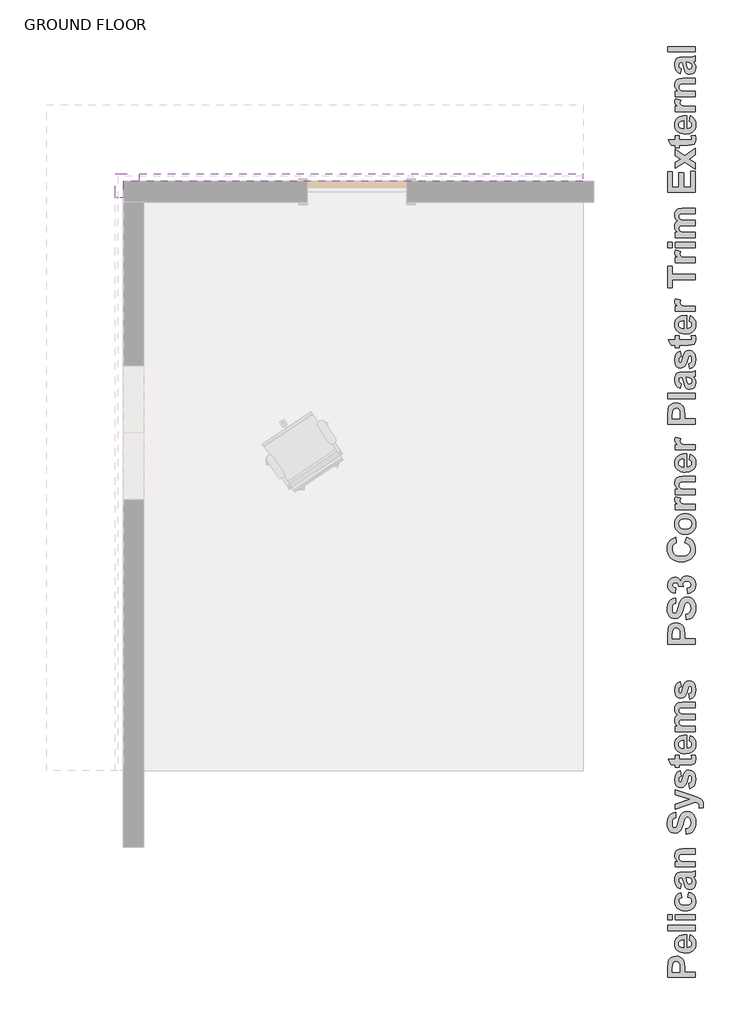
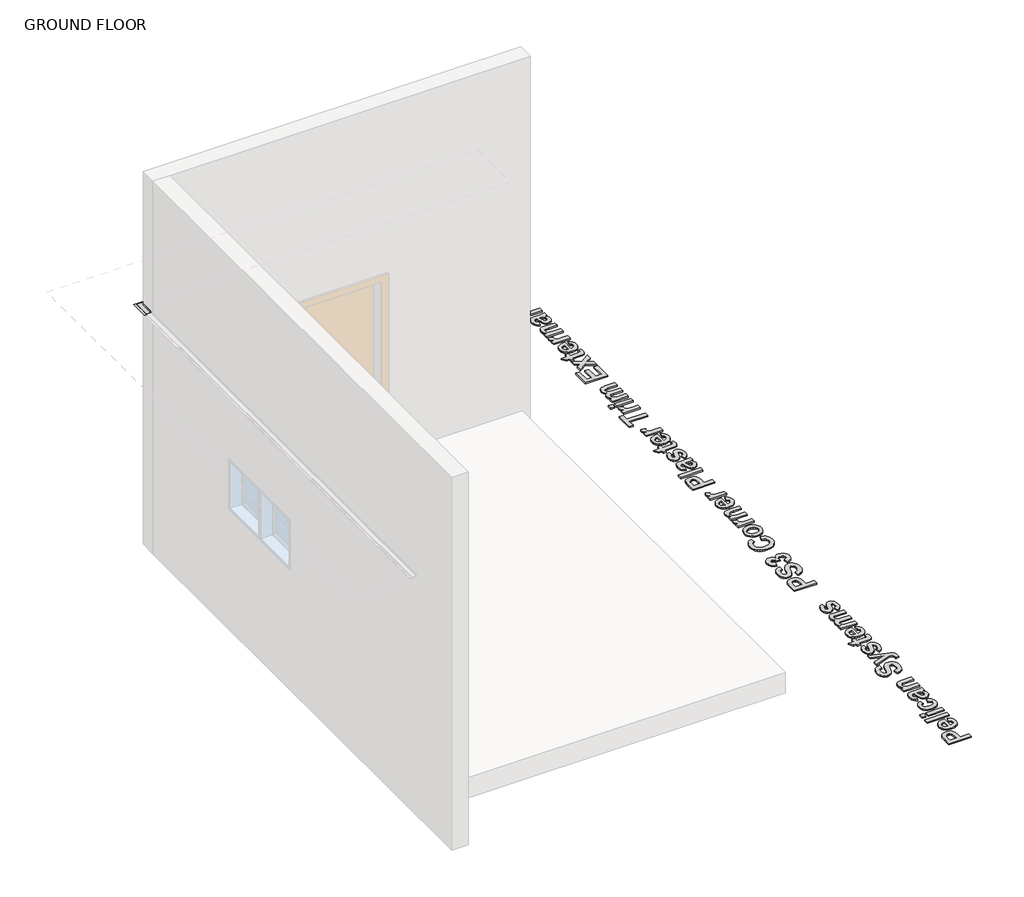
# One storey, part 2 of 2: 3 proxies.
"""IFC4 building model written with IfcOpenShell, lengths in millimetres."""

from ifc_helpers import new_model, si_unit, frame, origin, origin_with_axes, place, context, project, spatial, polyline, outline, extrude, transform, mapped, element, save
from components import ps3_corner_trim_external_f3c1cd9a

model = new_model("IFC4")

# Units and contexts
model_context = context("Model", 3, world=origin())
ifc_project = project(units=[si_unit("LENGTHUNIT", "METRE", prefix="MILLI")], contexts=[model_context])

# Site, building, storey
site = spatial("IfcSite", under=ifc_project)
building = spatial("IfcBuilding", under=site)
storey = spatial("IfcBuildingStorey", under=building, Name="GROUND FLOOR", Elevation=0.0)

# Proxies
placement = place(None, origin())
element("IfcBuildingElementProxy", 1, Name="600mm Arial", ObjectType="600mm Arial", at=placement, inside=storey, context=model_context, shape_type="SweptSolid", body=[
    extrude(outline(polyline([(125493.412774, 58020.8387413), (125238.347924, 58020.8387413), (125238.347924, 58103.013652), (125242.1435319, 58163.9331586), (125251.1976382, 58183.9787127), (125266.9731335, 58200.4658845), (125288.8848615, 58211.4968699), (125316.3476661, 58215.1738651), (125337.8323882, 58213.0151131), (125355.6005776, 58206.5388571), (125369.8024771, 58196.7335367), (125380.5883295, 58184.5875915), (125392.6393846, 58157.5438853), (125396.2452121, 58103.4564729), (125396.2452121, 58069.4225222), (125493.412774, 58069.4225222), (125493.412774, 58020.8387413)]), holes=[polyline([(125282.8830565, 58069.4225222), (125351.7100795, 58069.4225222), (125351.7100795, 58099.5976049), (125347.9144717, 58143.1522054), (125335.9899369, 58160.3589612), (125327.2046861, 58165.0323034), (125317.1067876, 58166.5900841), (125305.0399176, 58164.3997021), (125295.2820423, 58157.8285559), (125288.2917978, 58147.9204378), (125284.5278199, 58135.71914), (125282.8830565, 58096.0550376), (125282.8830565, 58069.4225222)])]), origin_with_axes(), (0.0, 0.0, 1.0), 15.0),
    extrude(outline(polyline([(125436.7316962, 58360.9252079), (125444.828993, 58409.5089889), (125467.4998426, 58397.6793443), (125484.0186445, 58380.5358487), (125494.1007279, 58358.2524674), (125497.4614224, 58331.0031657), (125495.4805895, 58309.0005013), (125489.5380909, 58290.0580457), (125479.6339266, 58274.1757989), (125465.7680965, 58261.353761), (125437.0638119, 58247.9742432), (125401.6855834, 58243.514404), (125379.845023, 58244.9931095), (125360.5032378, 58249.4292262), (125343.6602278, 58256.8227541), (125329.315993, 58267.1736931), (125317.8580017, 58279.7861818), (125309.6737222, 58293.9643588), (125304.7631545, 58309.708224), (125303.1262986, 58327.0177775), (125304.8066458, 58346.2528112), (125309.8476876, 58363.3449079), (125318.2494238, 58378.2940678), (125330.0118545, 58391.1002906), (125345.2456849, 58401.3049406), (125364.0616202, 58408.4493817), (125386.4596605, 58412.5336139), (125412.4398057, 58413.5576373), (125412.4398057, 58292.0981849), (125432.9044582, 58295.2137464), (125448.2450401, 58303.5482687), (125457.82895, 58315.8365492), (125461.0235867, 58330.8133853), (125459.5844187, 58341.0140815), (125455.2669147, 58349.4751241), (125447.7547741, 58356.133253), (125436.7316962, 58360.9252079)]), holes=[polyline([(125384.0992668, 58364.9738563), (125364.8919094, 58362.0164452), (125350.9193279, 58354.1563739), (125342.4029327, 58342.7379201), (125339.5641343, 58329.1053618), (125342.5531755, 58314.7136819), (125351.5202991, 58303.0421876), (125365.6747536, 58295.3877117), (125384.0992668, 58292.9205666), (125384.0992668, 58364.9738563)])]), origin_with_axes(), (0.0, 0.0, 1.0), 15.0),
    extrude(outline(polyline([(125493.412774, 58449.995473), (125238.347924, 58449.995473), (125238.347924, 58498.5792539), (125493.412774, 58498.5792539), (125493.412774, 58449.995473)])), origin_with_axes(), (0.0, 0.0, 1.0), 15.0),
    extrude(outline(polyline([(125282.8830565, 58547.1630349), (125238.347924, 58547.1630349), (125238.347924, 58595.7468158), (125282.8830565, 58595.7468158), (125282.8830565, 58547.1630349)])), origin_with_axes(), (0.0, 0.0, 1.0), 15.0),
    extrude(outline(polyline([(125493.412774, 58547.1630349), (125307.174947, 58547.1630349), (125307.174947, 58595.7468158), (125493.412774, 58595.7468158), (125493.412774, 58547.1630349)])), origin_with_axes(), (0.0, 0.0, 1.0), 15.0),
    extrude(outline(polyline([(125359.8073764, 58798.1792365), (125367.9046732, 58749.5954555), (125355.545225, 58745.8710153), (125346.6808991, 58739.252424), (125341.3433255, 58729.9769073), (125339.5641343, 58718.2816905), (125342.9011062, 58702.8778484), (125352.912022, 58690.9533137), (125370.7355641, 58683.3146528), (125397.5104147, 58680.7684325), (125427.1952314, 58683.4174505), (125446.6635368, 58691.3645045), (125457.4335742, 58703.7713978), (125461.0235867, 58719.7999336), (125458.9755399, 58731.9379713), (125452.8313997, 58741.656309), (125441.673894, 58748.9075016), (125424.585751, 58753.6441039), (125432.6830478, 58802.2278849), (125460.8258988, 58791.5922753), (125481.1086784, 58774.2352767), (125493.3732364, 58749.9987389), (125497.4614224, 58718.7245114), (125495.8522428, 58699.957998), (125491.024704, 58683.1960401), (125482.978806, 58668.4386375), (125471.7145489, 58655.6857904), (125457.6075396, 58645.4040421), (125441.0333851, 58638.0599363), (125421.9920856, 58633.6534727), (125400.4836409, 58632.1846516), (125378.7320401, 58633.6435883), (125359.5306133, 58638.0203987), (125342.8793606, 58645.3150826), (125328.7782819, 58655.5276401), (125317.5555392, 58668.2310652), (125309.5392944, 58682.9983521), (125304.7295475, 58699.8295009), (125303.1262986, 58718.7245114), (125306.6293284, 58747.9665071), (125317.1384177, 58770.534559), (125334.8117169, 58787.0612684), (125359.8073764, 58798.1792365)])), origin_with_axes(), (0.0, 0.0, 1.0), 15.0),
    extrude(outline(polyline([(125363.8560248, 58879.1522047), (125355.758728, 58834.6170722), (125332.4157394, 58844.2721497), (125316.0313654, 58859.067113), (125306.3525653, 58880.6309103), (125303.1262986, 58910.59249), (125305.0794551, 58937.6836413), (125310.9389248, 58956.8356461), (125319.7953432, 58969.772343), (125330.739346, 58978.2175706), (125347.7484138, 58982.8671902), (125374.8000275, 58984.4170634), (125432.2402269, 58984.4170634), (125468.4250221, 58986.9790988), (125493.412774, 58996.5630087), (125493.412774, 58947.9792277), (125477.9773019, 58943.4244983), (125471.8410692, 58941.7164747), (125491.040519, 58915.7165607), (125495.8561966, 58901.403956), (125497.4614224, 58886.1740793), (125493.5630168, 58861.3998303), (125481.8678, 58842.4929585), (125464.2261308, 58830.5130712), (125442.4883682, 58826.5197754), (125427.5906072, 58828.2989666), (125414.4008698, 58833.6365401), (125403.5043122, 58842.1845654), (125395.4860905, 58853.5951116), (125384.0360067, 58890.6022885), (125371.9533216, 58935.8332825), (125366.829251, 58935.8332825), (125354.2088547, 58934.3229469), (125345.8268873, 58929.7919399), (125341.1298226, 58921.0857644), (125339.5641343, 58907.0499227), (125340.9084121, 58896.9757468), (125344.9412455, 58889.400346), (125363.8560248, 58879.1522047)]), holes=[polyline([(125408.3911573, 58935.8332825), (125415.1283613, 58908.4416456), (125422.8144673, 58883.8967146), (125429.7256366, 58877.3018459), (125438.3131995, 58875.1035563), (125446.9244849, 58876.8669325), (125454.2863827, 58882.157061), (125459.3392857, 58890.1673751), (125461.0235867, 58900.0913082), (125459.0625226, 58912.000028), (125453.1793304, 58923.3077765), (125438.6295001, 58934.0619988), (125417.1843156, 58935.8332825), (125408.3911573, 58935.8332825)])]), origin_with_axes(), (0.0, 0.0, 1.0), 15.0),
    extrude(outline(polyline([(125493.412774, 59198.9954293), (125493.412774, 59150.4116484), (125397.7001951, 59150.4116484), (125358.3523933, 59147.375162), (125344.4984246, 59137.4433214), (125339.5641343, 59120.9324271), (125341.3275105, 59109.1739502), (125346.617639, 59098.6964909), (125354.825641, 59090.4094137), (125365.3426379, 59085.2220829), (125408.4544174, 59081.5846253), (125493.412774, 59081.5846253), (125493.412774, 59033.0008444), (125307.174947, 59033.0008444), (125307.174947, 59081.5846253), (125333.9972427, 59081.5846253), (125320.4912047, 59093.8768596), (125310.8440346, 59107.6636145), (125305.0557326, 59122.94489), (125303.1262986, 59139.7206861), (125309.0094908, 59167.9347048), (125324.002142, 59187.292305), (125344.6565749, 59196.433394), (125377.7732537, 59198.9954293), (125493.412774, 59198.9954293)])), origin_with_axes(), (0.0, 0.0, 1.0), 15.0),
    extrude(outline(polyline([(125408.3911573, 59332.6008269), (125404.3425089, 59381.1846079), (125426.0723641, 59388.2697426), (125441.1599054, 59400.1626473), (125449.9846937, 59416.9423972), (125452.9262899, 59438.6880674), (125450.3247169, 59461.2561193), (125442.5199982, 59477.4665279), (125431.2359723, 59487.2402182), (125418.1964777, 59490.498115), (125402.9824161, 59485.0893738), (125392.0700434, 59466.1429644), (125381.2525609, 59424.0117169), (125370.0713327, 59388.0483321), (125356.3913293, 59364.6737136), (125333.0957859, 59346.6920212), (125305.2138829, 59340.6981237), (125286.4256239, 59343.4499395), (125268.9025675, 59351.7053866), (125254.0206216, 59365.1481646), (125243.155694, 59383.4619726), (125236.5133802, 59406.3463252), (125234.2992756, 59433.5007366), (125239.818722, 59475.4659263), (125246.7180301, 59492.0064738), (125256.3770614, 59505.5856564), (125268.3371801, 59516.2469654), (125282.13975, 59524.0338922), (125297.7847712, 59528.9464368), (125315.2722438, 59530.9845991), (125315.2722438, 59482.4008182), (125298.5794766, 59477.0316145), (125287.3428958, 59467.7560978), (125280.96153, 59453.7202561), (125278.8344081, 59434.0700778), (125281.0959578, 59413.3840148), (125287.8806069, 59397.7587623), (125294.681071, 59391.4011191), (125303.4425992, 59389.2819047), (125311.7138614, 59391.2113387), (125318.6882909, 59396.9996407), (125326.8567554, 59413.8031132), (125335.2940754, 59444.6028896), (125344.0714187, 59477.4744355), (125353.2599528, 59500.4932158), (125364.3858284, 59516.6245493), (125378.9751962, 59528.8337547), (125397.2099291, 59536.5198606), (125419.2718999, 59539.081896), (125440.3375237, 59536.0533172), (125460.0114246, 59526.9675808), (125476.5539489, 59512.3386754), (125488.2254432, 59492.6805895), (125495.1524276, 59467.7798203), (125497.4614224, 59437.4228647), (125496.0400463, 59414.7203851), (125491.7759181, 59394.8171662), (125484.6690377, 59377.7132082), (125474.7194051, 59363.4085109), (125462.0456332, 59351.8042306), (125446.7663346, 59342.8015231), (125428.8815093, 59336.4003886), (125408.3911573, 59332.6008269)])), origin_with_axes(), (0.0, 0.0, 1.0), 15.0),
    extrude(outline(polyline([(125307.174947, 59559.325138), (125307.174947, 59607.908919), (125439.0090609, 59650.4197273), (125307.174947, 59692.9305356), (125307.174947, 59741.5143166), (125485.6317778, 59678.5072257), (125518.7800867, 59666.8041014), (125542.3761157, 59655.2591274), (125555.5974832, 59642.6387311), (125563.4733696, 59625.0840447), (125566.2884454, 59601.5829058), (125563.5049996, 59575.5197317), (125527.5099848, 59571.4710833), (125529.8506097, 59590.7654234), (125527.2806668, 59604.5324095), (125519.5708383, 59614.2033021), (125493.412774, 59625.8747963), (125307.174947, 59559.325138)])), origin_with_axes(), (0.0, 0.0, 1.0), 15.0),
    extrude(outline(polyline([(125440.7803446, 59749.6116134), (125432.6830478, 59798.1953944), (125444.9238832, 59802.8212915), (125453.8119317, 59810.6260102), (125459.2206729, 59821.8784061), (125461.0235867, 59836.8473347), (125459.2997481, 59853.0893734), (125454.1282323, 59864.7450526), (125448.4980807, 59869.4895625), (125441.2231655, 59871.0710658), (125432.1137066, 59867.7182788), (125425.7244333, 59851.8399858), (125413.2938175, 59804.9167833), (125401.9386239, 59779.0275745), (125383.9569315, 59763.0385763), (125360.123677, 59757.7089102), (125337.9351859, 59762.2794547), (125319.5739328, 59775.9910882), (125307.2382071, 59799.3182617), (125303.1262986, 59832.7354261), (125306.4474555, 59864.6027173), (125316.4109262, 59887.075879), (125332.8901904, 59902.0843452), (125355.758728, 59911.5575499), (125363.8560248, 59862.973769), (125353.4655482, 59859.3995715), (125345.8268873, 59853.6112695), (125341.1298226, 59845.2609322), (125339.5641343, 59834.0006288), (125340.8925971, 59820.162475), (125344.8779853, 59810.9106808), (125354.7465658, 59806.2926912), (125363.5397241, 59810.9106808), (125377.1406524, 59853.8959401), (125386.9617878, 59885.1227225), (125398.8388775, 59905.2315368), (125414.511575, 59916.0490192), (125435.3399733, 59919.6548467), (125459.0388001, 59914.4279784), (125479.1476143, 59898.7473733), (125487.1599054, 59887.0383183), (125492.8829704, 59872.8186269), (125497.4614224, 59836.8473347), (125493.6499995, 59803.532968), (125482.2157307, 59777.9837824), (125464.2340383, 59760.0574426), (125440.7803446, 59749.6116134)])), origin_with_axes(), (0.0, 0.0, 1.0), 15.0),
    extrude(outline(polyline([(125307.174947, 60053.2602444), (125343.6127827, 60053.2602444), (125343.6127827, 60016.8224086), (125423.5103287, 60016.8224086), (125451.7559774, 60017.9294609), (125458.3982912, 60022.9586414), (125461.0235867, 60032.5109212), (125456.3423369, 60055.2845686), (125490.8823687, 60057.3088928), (125495.816659, 60038.5680788), (125497.4614224, 60017.5182701), (125492.9066929, 59992.9733391), (125481.1403085, 59976.9368958), (125461.5929279, 59969.820131), (125426.2305144, 59968.2386277), (125343.6127827, 59968.2386277), (125343.6127827, 59943.9467372), (125307.174947, 59943.9467372), (125307.174947, 59968.2386277), (125270.7371113, 59968.2386277), (125242.3965724, 60016.8224086), (125307.174947, 60016.8224086), (125307.174947, 60053.2602444)])), origin_with_axes(), (0.0, 0.0, 1.0), 15.0),
    extrude(outline(polyline([(125436.7316962, 60186.865642), (125444.828993, 60235.4494229), (125467.4998426, 60223.6197783), (125484.0186445, 60206.4762827), (125494.1007279, 60184.1929014), (125497.4614224, 60156.9435998), (125495.4805895, 60134.9409353), (125489.5380909, 60115.9984797), (125479.6339266, 60100.116233), (125465.7680965, 60087.2941951), (125437.0638119, 60073.9146773), (125401.6855834, 60069.454838), (125379.845023, 60070.9335436), (125360.5032378, 60075.3696603), (125343.6602278, 60082.7631882), (125329.315993, 60093.1141272), (125317.8580017, 60105.7266159), (125309.6737222, 60119.9047928), (125304.7631545, 60135.648658), (125303.1262986, 60152.9582115), (125304.8066458, 60172.1932452), (125309.8476876, 60189.285342), (125318.2494238, 60204.2345018), (125330.0118545, 60217.0407247), (125345.2456849, 60227.2453746), (125364.0616202, 60234.3898157), (125386.4596605, 60238.474048), (125412.4398057, 60239.4980713), (125412.4398057, 60118.038619), (125432.9044582, 60121.1541804), (125448.2450401, 60129.4887027), (125457.82895, 60141.7769833), (125461.0235867, 60156.7538194), (125459.5844187, 60166.9545156), (125455.2669147, 60175.4155582), (125447.7547741, 60182.073687), (125436.7316962, 60186.865642)]), holes=[polyline([(125384.0992668, 60190.9142904), (125364.8919094, 60187.9568792), (125350.9193279, 60180.0968079), (125342.4029327, 60168.6783542), (125339.5641343, 60155.0457958), (125342.5531755, 60140.6541159), (125351.5202991, 60128.9826217), (125365.6747536, 60121.3281458), (125384.0992668, 60118.8610007), (125384.0992668, 60190.9142904)])]), origin_with_axes(), (0.0, 0.0, 1.0), 15.0),
    extrude(outline(polyline([(125307.174947, 60271.8872586), (125307.174947, 60320.4710396), (125332.0994388, 60320.4710396), (125319.42369, 60332.4311582), (125310.3695836, 60345.4746065), (125304.9371199, 60359.6013846), (125303.1262986, 60374.8114925), (125304.9054898, 60390.4604675), (125310.2430634, 60403.8795229), (125319.1864645, 60415.0844737), (125331.7831381, 60424.0911349), (125319.1864645, 60436.5296582), (125310.2430634, 60449.9328986), (125304.9054898, 60464.2850409), (125303.1262986, 60479.5702702), (125305.2059754, 60498.0264135), (125311.4450059, 60513.4144405), (125321.7168697, 60525.5287557), (125335.8950467, 60534.1637636), (125351.472854, 60537.8644813), (125374.4204667, 60539.0980539), (125493.412774, 60539.0980539), (125493.412774, 60490.5142729), (125386.1868512, 60490.5142729), (125363.2392385, 60489.2807003), (125350.1918364, 60485.5799827), (125342.2210598, 60477.1980152), (125339.5641343, 60465.2102203), (125341.1535451, 60455.5076977), (125345.9217775, 60446.3903312), (125353.7581263, 60438.7991154), (125364.5518862, 60433.6750448), (125403.3303468, 60429.7845467), (125493.412774, 60429.7845467), (125493.412774, 60381.2007658), (125390.6150604, 60381.2007658), (125355.284277, 60378.6703605), (125343.4546324, 60370.8577343), (125339.5641343, 60356.4660544), (125341.1061, 60346.0755778), (125345.7319971, 60336.7921535), (125353.2757678, 60329.2958279), (125363.5713542, 60324.2666475), (125402.2549246, 60320.4710396), (125493.412774, 60320.4710396), (125493.412774, 60271.8872586), (125307.174947, 60271.8872586)])), origin_with_axes(), (0.0, 0.0, 1.0), 15.0),
    extrude(outline(polyline([(125440.7803446, 60567.4385927), (125432.6830478, 60616.0223737), (125444.9238832, 60620.6482708), (125453.8119317, 60628.4529895), (125459.2206729, 60639.7053854), (125461.0235867, 60654.674314), (125459.2997481, 60670.9163528), (125454.1282323, 60682.572032), (125448.4980807, 60687.3165418), (125441.2231655, 60688.8980451), (125432.1137066, 60685.5452582), (125425.7244333, 60669.6669652), (125413.2938175, 60622.7437627), (125401.9386239, 60596.8545539), (125383.9569315, 60580.8655556), (125360.123677, 60575.5358896), (125337.9351859, 60580.1064341), (125319.5739328, 60593.8180676), (125307.2382071, 60617.145241), (125303.1262986, 60650.5624055), (125306.4474555, 60682.4296967), (125316.4109262, 60704.9028584), (125332.8901904, 60719.9113246), (125355.758728, 60729.3845292), (125363.8560248, 60680.8007483), (125353.4655482, 60677.2265509), (125345.8268873, 60671.4382488), (125341.1298226, 60663.0879115), (125339.5641343, 60651.8276081), (125340.8925971, 60637.9894543), (125344.8779853, 60628.7376601), (125354.7465658, 60624.1196705), (125363.5397241, 60628.7376601), (125377.1406524, 60671.7229194), (125386.9617878, 60702.9497018), (125398.8388775, 60723.0585161), (125414.511575, 60733.8759986), (125435.3399733, 60737.4818261), (125459.0388001, 60732.2549577), (125479.1476143, 60716.5743526), (125487.1599054, 60704.8652977), (125492.8829704, 60690.6456063), (125497.4614224, 60654.674314), (125493.6499995, 60621.3599473), (125482.2157307, 60595.8107617), (125464.2340383, 60577.8844219), (125440.7803446, 60567.4385927)])), origin_with_axes(), (0.0, 0.0, 1.0), 15.0),
    extrude(outline(polyline([(125493.412774, 61073.5196443), (125238.347924, 61073.5196443), (125238.347924, 61155.6945551), (125242.1435319, 61216.6140616), (125251.1976382, 61236.6596158), (125266.9731335, 61253.1467876), (125288.8848615, 61264.177773), (125316.3476661, 61267.8547681), (125337.8323882, 61265.6960161), (125355.6005776, 61259.2197602), (125369.8024771, 61249.4144398), (125380.5883295, 61237.2684946), (125392.6393846, 61210.2247884), (125396.2452121, 61156.137376), (125396.2452121, 61122.1034253), (125493.412774, 61122.1034253), (125493.412774, 61073.5196443)]), holes=[polyline([(125282.8830565, 61122.1034253), (125351.7100795, 61122.1034253), (125351.7100795, 61152.278508), (125347.9144717, 61195.8331085), (125335.9899369, 61213.0398642), (125327.2046861, 61217.7132064), (125317.1067876, 61219.2709872), (125305.0399176, 61217.0806051), (125295.2820423, 61210.509459), (125288.2917978, 61200.6013409), (125284.5278199, 61188.400043), (125282.8830565, 61148.7359406), (125282.8830565, 61122.1034253)])]), origin_with_axes(), (0.0, 0.0, 1.0), 15.0),
    extrude(outline(polyline([(125408.3911573, 61296.195307), (125404.3425089, 61344.7790879), (125426.0723641, 61351.8642227), (125441.1599054, 61363.7571274), (125449.9846937, 61380.5368772), (125452.9262899, 61402.2825474), (125450.3247169, 61424.8505993), (125442.5199982, 61441.061008), (125431.2359723, 61450.8346983), (125418.1964777, 61454.0925951), (125402.9824161, 61448.6838538), (125392.0700434, 61429.7374445), (125381.2525609, 61387.6061969), (125370.0713327, 61351.6428122), (125356.3913293, 61328.2681936), (125333.0957859, 61310.2865013), (125305.2138829, 61304.2926038), (125286.4256239, 61307.0444195), (125268.9025675, 61315.2998667), (125254.0206216, 61328.7426446), (125243.155694, 61347.0564527), (125236.5133802, 61369.9408052), (125234.2992756, 61397.0952167), (125239.818722, 61439.0604064), (125246.7180301, 61455.6009538), (125256.3770614, 61469.1801364), (125268.3371801, 61479.8414455), (125282.13975, 61487.6283723), (125297.7847712, 61492.5409169), (125315.2722438, 61494.5790792), (125315.2722438, 61445.9952983), (125298.5794766, 61440.6260946), (125287.3428958, 61431.3505778), (125280.96153, 61417.3147362), (125278.8344081, 61397.6645578), (125281.0959578, 61376.9784949), (125287.8806069, 61361.3532424), (125294.681071, 61354.9955992), (125303.4425992, 61352.8763848), (125311.7138614, 61354.8058188), (125318.6882909, 61360.5941208), (125326.8567554, 61377.3975932), (125335.2940754, 61408.1973697), (125344.0714187, 61441.0689155), (125353.2599528, 61464.0876959), (125364.3858284, 61480.2190294), (125378.9751962, 61492.4282347), (125397.2099291, 61500.1143407), (125419.2718999, 61502.676376), (125440.3375237, 61499.6477972), (125460.0114246, 61490.5620609), (125476.5539489, 61475.9331555), (125488.2254432, 61456.2750696), (125495.1524276, 61431.3743004), (125497.4614224, 61401.0173448), (125496.0400463, 61378.3148651), (125491.7759181, 61358.4116463), (125484.6690377, 61341.3076882), (125474.7194051, 61327.002991), (125462.0456332, 61315.3987107), (125446.7663346, 61306.3960032), (125428.8815093, 61299.9948686), (125408.3911573, 61296.195307)])), origin_with_axes(), (0.0, 0.0, 1.0), 15.0),
    extrude(outline(polyline([(125422.1186058, 61535.0655633), (125416.4884541, 61583.6493443), (125432.1137066, 61587.3975071), (125443.5637904, 61594.593347), (125450.585665, 61604.4461125), (125452.9262899, 61616.1650519), (125450.2456418, 61628.738003), (125442.2036976, 61639.1284796), (125429.6228389, 61646.1029091), (125413.3254476, 61648.4277189), (125397.9057905, 61646.300597), (125386.0603309, 61639.9192312), (125378.5165602, 61630.4697491), (125376.00197, 61619.138278), (125379.6077975, 61599.8439379), (125339.5641343, 61604.0823667), (125337.8244807, 61617.912613), (125331.5933577, 61628.0263265), (125321.7247772, 61634.2179119), (125309.0727509, 61636.2817737), (125298.3264361, 61634.7398079), (125289.9998213, 61630.1139108), (125284.6622477, 61622.9259784), (125282.8830565, 61613.6979067), (125284.9469183, 61604.3116847), (125291.1385037, 61596.3962608), (125301.2996623, 61590.6316813), (125315.2722438, 61587.6979927), (125307.9973287, 61539.1142118), (125286.259566, 61544.6731958), (125269.3770185, 61552.4937296), (125256.4640441, 61563.2163218), (125246.6350012, 61577.4814815), (125240.4196933, 61594.4747343), (125238.347924, 61613.3816061), (125244.0887809, 61644.0311398), (125251.2648521, 61656.8175938), (125261.3113517, 61667.9118394), (125281.3331833, 61680.6271258), (125303.82216, 61684.8655546), (125319.7676669, 61682.5921436), (125334.0130578, 61675.7719107), (125346.5583326, 61664.4048558), (125357.4034914, 61648.490979), (125364.9551696, 61668.3546603), (125378.2477047, 61683.7901324), (125396.1107843, 61693.706158), (125417.374096, 61697.0114998), (125448.1422424, 61691.1520302), (125474.0235437, 61673.5736211), (125484.2776156, 61661.1370747), (125491.6019527, 61647.265314), (125497.4614224, 61615.2161499), (125492.2503691, 61584.9540845), (125476.6172091, 61560.3379859), (125452.5704516, 61543.1233226), (125422.1186058, 61535.0655633)])), origin_with_axes(), (0.0, 0.0, 1.0), 15.0),
    extrude(outline(polyline([(125396.2452121, 62000.6601308), (125412.4398057, 62049.2439117), (125448.2213176, 62033.9191449), (125462.1563384, 62023.3981943), (125473.4542025, 62010.9715322), (125488.4231311, 61980.6066691), (125493.412774, 61943.030151), (125491.2816983, 61918.7026767), (125484.8884713, 61896.6446596), (125474.2330929, 61876.8560998), (125459.3155631, 61859.3369971), (125440.7012694, 61845.0006698), (125418.9555993, 61834.7604361), (125394.0785526, 61828.6162958), (125366.0701294, 61826.568249), (125336.5355555, 61828.6340877), (125310.4961039, 61834.8316037), (125287.9517746, 61845.160797), (125268.9025675, 61859.6216677), (125253.7636273, 61877.4511404), (125242.9500986, 61897.8861397), (125236.4619813, 61920.9266657), (125234.2992756, 61946.5727184), (125236.0824205, 61968.998435), (125241.4318554, 61989.210047), (125250.3475802, 62007.2075544), (125262.8295949, 62022.9909572), (125283.3416925, 62038.315724), (125311.2235954, 62049.2439117), (125319.3208922, 62000.6601308), (125302.5174198, 61993.2191578), (125289.6835207, 61980.5117789), (125281.5466862, 61963.5185261), (125278.8344081, 61943.2199314), (125283.7607908, 61915.7729419), (125298.5399391, 61894.0351792), (125309.9168783, 61885.7738014), (125324.3421652, 61879.8728173), (125362.3377816, 61875.15203), (125402.4130749, 61879.730482), (125417.3978185, 61885.453547), (125429.0139602, 61893.465838), (125443.9117211, 61914.5393693), (125448.8776414, 61941.1323471), (125445.7067274, 61961.2095313), (125436.1939851, 61978.2976743), (125419.8649637, 61991.6850996), (125396.2452121, 62000.6601308)])), origin_with_axes(), (0.0, 0.0, 1.0), 15.0),
    extrude(outline(polyline([(125397.636935, 62077.5844506), (125373.5427324, 62080.5813993), (125350.2234664, 62089.5722455), (125330.0039469, 62104.0509081), (125315.2089837, 62123.511306), (125306.1469699, 62146.7435893), (125303.1262986, 62172.5379079), (125304.8382759, 62192.5300863), (125309.9742078, 62210.6284146), (125318.5340944, 62226.8328926), (125330.5179355, 62241.1435205), (125345.1191646, 62252.8367604), (125361.5312149, 62261.1890746), (125379.7540866, 62266.2004632), (125399.7877794, 62267.870926), (125419.9815995, 62266.1826712), (125438.3685521, 62261.117907), (125454.9486372, 62252.6766332), (125469.7218548, 62240.8588499), (125481.8579156, 62226.482985), (125490.5265305, 62210.3674665), (125495.7276994, 62192.5122944), (125497.4614224, 62172.9174687), (125494.5751789, 62148.1432197), (125485.9164484, 62124.5550982), (125471.6750113, 62104.3118562), (125452.040648, 62089.5722455), (125427.2743066, 62080.5813993), (125397.636935, 62077.5844506)]), holes=[polyline([(125400.2938605, 62126.1682316), (125426.270052, 62129.5289261), (125445.3667041, 62139.6110095), (125457.109366, 62154.6273832), (125461.0235867, 62172.7909484), (125457.109366, 62190.9386987), (125445.3667041, 62205.9076273), (125426.1751618, 62215.9422656), (125399.9142997, 62219.2871451), (125374.2227788, 62215.9422656), (125355.2210168, 62205.9076273), (125343.4783549, 62190.9386987), (125339.5641343, 62172.7909484), (125343.4783549, 62154.6273832), (125355.2210168, 62139.6110095), (125374.317669, 62129.5289261), (125400.2938605, 62126.1682316)])]), origin_with_axes(), (0.0, 0.0, 1.0), 15.0),
    extrude(outline(polyline([(125493.412774, 62352.8925427), (125493.412774, 62304.3087617), (125307.174947, 62304.3087617), (125307.174947, 62352.8925427), (125333.1116009, 62352.8925427), (125308.9146006, 62372.313403), (125303.1262986, 62391.9240438), (125305.6883339, 62407.0906603), (125313.3744399, 62421.7195657), (125359.617596, 62407.5492962), (125353.6869586, 62395.8461719), (125351.7100795, 62385.0286894), (125357.245341, 62367.9168239), (125365.0026147, 62361.6698859), (125377.2039125, 62356.909561), (125437.6805982, 62352.8925427), (125493.412774, 62352.8925427)])), origin_with_axes(), (0.0, 0.0, 1.0), 15.0),
    extrude(outline(polyline([(125493.412774, 62607.9573927), (125493.412774, 62559.3736117), (125397.7001951, 62559.3736117), (125358.3523933, 62556.3371254), (125344.4984246, 62546.4052848), (125339.5641343, 62529.8943905), (125341.3275105, 62518.1359135), (125346.617639, 62507.6584543), (125354.825641, 62499.371377), (125365.3426379, 62494.1840463), (125408.4544174, 62490.5465887), (125493.412774, 62490.5465887), (125493.412774, 62441.9628077), (125307.174947, 62441.9628077), (125307.174947, 62490.5465887), (125333.9972427, 62490.5465887), (125320.4912047, 62502.838823), (125310.8440346, 62516.6255779), (125305.0557326, 62531.9068534), (125303.1262986, 62548.6826495), (125309.0094908, 62576.8966681), (125324.002142, 62596.2542683), (125344.6565749, 62605.3953573), (125377.7732537, 62607.9573927), (125493.412774, 62607.9573927)])), origin_with_axes(), (0.0, 0.0, 1.0), 15.0),
    extrude(outline(polyline([(125436.7316962, 62761.8060323), (125444.828993, 62810.3898133), (125467.4998426, 62798.5601687), (125484.0186445, 62781.4166731), (125494.1007279, 62759.1332918), (125497.4614224, 62731.8839902), (125495.4805895, 62709.8813257), (125489.5380909, 62690.9388701), (125479.6339266, 62675.0566233), (125465.7680965, 62662.2345854), (125437.0638119, 62648.8550676), (125401.6855834, 62644.3952284), (125379.845023, 62645.8739339), (125360.5032378, 62650.3100507), (125343.6602278, 62657.7035785), (125329.315993, 62668.0545175), (125317.8580017, 62680.6670062), (125309.6737222, 62694.8451832), (125304.7631545, 62710.5890484), (125303.1262986, 62727.8986019), (125304.8066458, 62747.1336356), (125309.8476876, 62764.2257324), (125318.2494238, 62779.1748922), (125330.0118545, 62791.981115), (125345.2456849, 62802.185765), (125364.0616202, 62809.3302061), (125386.4596605, 62813.4144383), (125412.4398057, 62814.4384617), (125412.4398057, 62692.9790093), (125432.9044582, 62696.0945708), (125448.2450401, 62704.4290931), (125457.82895, 62716.7173736), (125461.0235867, 62731.6942098), (125459.5844187, 62741.894906), (125455.2669147, 62750.3559485), (125447.7547741, 62757.0140774), (125436.7316962, 62761.8060323)]), holes=[polyline([(125384.0992668, 62765.8546807), (125364.8919094, 62762.8972696), (125350.9193279, 62755.0371983), (125342.4029327, 62743.6187445), (125339.5641343, 62729.9861862), (125342.5531755, 62715.5945063), (125351.5202991, 62703.9230121), (125365.6747536, 62696.2685362), (125384.0992668, 62693.801391), (125384.0992668, 62765.8546807)])]), origin_with_axes(), (0.0, 0.0, 1.0), 15.0),
    extrude(outline(polyline([(125493.412774, 62899.4600784), (125493.412774, 62850.8762974), (125307.174947, 62850.8762974), (125307.174947, 62899.4600784), (125333.1116009, 62899.4600784), (125308.9146006, 62918.8809387), (125303.1262986, 62938.4915795), (125305.6883339, 62953.658196), (125313.3744399, 62968.2871014), (125359.617596, 62954.1168319), (125353.6869586, 62942.4137076), (125351.7100795, 62931.5962251), (125357.245341, 62914.4843596), (125365.0026147, 62908.2374216), (125377.2039125, 62903.4770967), (125437.6805982, 62899.4600784), (125493.412774, 62899.4600784)])), origin_with_axes(), (0.0, 0.0, 1.0), 15.0),
    extrude(outline(polyline([(125493.412774, 63085.6979053), (125238.347924, 63085.6979053), (125238.347924, 63167.8728161), (125242.1435319, 63228.7923227), (125251.1976382, 63248.8378768), (125266.9731335, 63265.3250486), (125288.8848615, 63276.356034), (125316.3476661, 63280.0330291), (125337.8323882, 63277.8742772), (125355.6005776, 63271.3980212), (125369.8024771, 63261.5927008), (125380.5883295, 63249.4467556), (125392.6393846, 63222.4030494), (125396.2452121, 63168.315637), (125396.2452121, 63134.2816863), (125493.412774, 63134.2816863), (125493.412774, 63085.6979053)]), holes=[polyline([(125282.8830565, 63134.2816863), (125351.7100795, 63134.2816863), (125351.7100795, 63164.456769), (125347.9144717, 63208.0113695), (125335.9899369, 63225.2181252), (125327.2046861, 63229.8914675), (125317.1067876, 63231.4492482), (125305.0399176, 63229.2588661), (125295.2820423, 63222.68772), (125288.2917978, 63212.7796019), (125284.5278199, 63200.578304), (125282.8830565, 63160.9142016), (125282.8830565, 63134.2816863)])]), origin_with_axes(), (0.0, 0.0, 1.0), 15.0),
    extrude(outline(polyline([(125493.412774, 63320.5195133), (125238.347924, 63320.5195133), (125238.347924, 63369.1032942), (125493.412774, 63369.1032942), (125493.412774, 63320.5195133)])), origin_with_axes(), (0.0, 0.0, 1.0), 15.0),
    extrude(outline(polyline([(125363.8560248, 63458.1735593), (125355.758728, 63413.6384268), (125332.4157394, 63423.2935043), (125316.0313654, 63438.0884676), (125306.3525653, 63459.6522649), (125303.1262986, 63489.6138446), (125305.0794551, 63516.7049959), (125310.9389248, 63535.8570007), (125319.7953432, 63548.7936976), (125330.739346, 63557.2389251), (125347.7484138, 63561.8885448), (125374.8000275, 63563.438418), (125432.2402269, 63563.438418), (125468.4250221, 63566.0004533), (125493.412774, 63575.5843633), (125493.412774, 63527.0005823), (125477.9773019, 63522.4458528), (125471.8410692, 63520.7378293), (125491.040519, 63494.7379153), (125495.8561966, 63480.4253105), (125497.4614224, 63465.1954339), (125493.5630168, 63440.4211849), (125481.8678, 63421.5143131), (125464.2261308, 63409.5344257), (125442.4883682, 63405.5411299), (125427.5906072, 63407.3203211), (125414.4008698, 63412.6578947), (125403.5043122, 63421.20592), (125395.4860905, 63432.6164662), (125384.0360067, 63469.6236431), (125371.9533216, 63514.8546371), (125366.829251, 63514.8546371), (125354.2088547, 63513.3443014), (125345.8268873, 63508.8132945), (125341.1298226, 63500.1071189), (125339.5641343, 63486.0712773), (125340.9084121, 63475.9971013), (125344.9412455, 63468.4217006), (125363.8560248, 63458.1735593)]), holes=[polyline([(125408.3911573, 63514.8546371), (125415.1283613, 63487.4630001), (125422.8144673, 63462.9180691), (125429.7256366, 63456.3232004), (125438.3131995, 63454.1249109), (125446.9244849, 63455.888287), (125454.2863827, 63461.1784155), (125459.3392857, 63469.1887297), (125461.0235867, 63479.1126628), (125459.0625226, 63491.0213825), (125453.1793304, 63502.329131), (125438.6295001, 63513.0833534), (125417.1843156, 63514.8546371), (125408.3911573, 63514.8546371)])]), origin_with_axes(), (0.0, 0.0, 1.0), 15.0),
    extrude(outline(polyline([(125440.7803446, 63591.7789569), (125432.6830478, 63640.3627379), (125444.9238832, 63644.988635), (125453.8119317, 63652.7933537), (125459.2206729, 63664.0457496), (125461.0235867, 63679.0146782), (125459.2997481, 63695.2567169), (125454.1282323, 63706.9123961), (125448.4980807, 63711.656906), (125441.2231655, 63713.2384093), (125432.1137066, 63709.8856223), (125425.7244333, 63694.0073293), (125413.2938175, 63647.0841268), (125401.9386239, 63621.194918), (125383.9569315, 63605.2059198), (125360.123677, 63599.8762537), (125337.9351859, 63604.4467982), (125319.5739328, 63618.1584317), (125307.2382071, 63641.4856052), (125303.1262986, 63674.9027696), (125306.4474555, 63706.7700608), (125316.4109262, 63729.2432225), (125332.8901904, 63744.2516887), (125355.758728, 63753.7248934), (125363.8560248, 63705.1411125), (125353.4655482, 63701.566915), (125345.8268873, 63695.778613), (125341.1298226, 63687.4282756), (125339.5641343, 63676.1679723), (125340.8925971, 63662.3298185), (125344.8779853, 63653.0780243), (125354.7465658, 63648.4600347), (125363.5397241, 63653.0780243), (125377.1406524, 63696.0632836), (125386.9617878, 63727.290066), (125398.8388775, 63747.3988803), (125414.511575, 63758.2163627), (125435.3399733, 63761.8221902), (125459.0388001, 63756.5953219), (125479.1476143, 63740.9147168), (125487.1599054, 63729.2056618), (125492.8829704, 63714.9859704), (125497.4614224, 63679.0146782), (125493.6499995, 63645.7003114), (125482.2157307, 63620.1511259), (125464.2340383, 63602.2247861), (125440.7803446, 63591.7789569)])), origin_with_axes(), (0.0, 0.0, 1.0), 15.0),
    extrude(outline(polyline([(125307.174947, 63895.4275878), (125343.6127827, 63895.4275878), (125343.6127827, 63858.9897521), (125423.5103287, 63858.9897521), (125451.7559774, 63860.0968044), (125458.3982912, 63865.1259849), (125461.0235867, 63874.6782647), (125456.3423369, 63897.451912), (125490.8823687, 63899.4762363), (125495.816659, 63880.7354223), (125497.4614224, 63859.6856136), (125492.9066929, 63835.1406826), (125481.1403085, 63819.1042393), (125461.5929279, 63811.9874745), (125426.2305144, 63810.4059712), (125343.6127827, 63810.4059712), (125343.6127827, 63786.1140807), (125307.174947, 63786.1140807), (125307.174947, 63810.4059712), (125270.7371113, 63810.4059712), (125242.3965724, 63858.9897521), (125307.174947, 63858.9897521), (125307.174947, 63895.4275878)])), origin_with_axes(), (0.0, 0.0, 1.0), 15.0),
    extrude(outline(polyline([(125436.7316962, 64029.0329855), (125444.828993, 64077.6167664), (125467.4998426, 64065.7871218), (125484.0186445, 64048.6436262), (125494.1007279, 64026.3602449), (125497.4614224, 63999.1109433), (125495.4805895, 63977.1082788), (125489.5380909, 63958.1658232), (125479.6339266, 63942.2835765), (125465.7680965, 63929.4615386), (125437.0638119, 63916.0820208), (125401.6855834, 63911.6221815), (125379.845023, 63913.1008871), (125360.5032378, 63917.5370038), (125343.6602278, 63924.9305316), (125329.315993, 63935.2814707), (125317.8580017, 63947.8939594), (125309.6737222, 63962.0721363), (125304.7631545, 63977.8160015), (125303.1262986, 63995.125555), (125304.8066458, 64014.3605887), (125309.8476876, 64031.4526855), (125318.2494238, 64046.4018453), (125330.0118545, 64059.2080682), (125345.2456849, 64069.4127181), (125364.0616202, 64076.5571592), (125386.4596605, 64080.6413914), (125412.4398057, 64081.6654148), (125412.4398057, 63960.2059624), (125432.9044582, 63963.3215239), (125448.2450401, 63971.6560462), (125457.82895, 63983.9443268), (125461.0235867, 63998.9211629), (125459.5844187, 64009.1218591), (125455.2669147, 64017.5829017), (125447.7547741, 64024.2410305), (125436.7316962, 64029.0329855)]), holes=[polyline([(125384.0992668, 64033.0816339), (125364.8919094, 64030.1242227), (125350.9193279, 64022.2641514), (125342.4029327, 64010.8456977), (125339.5641343, 63997.2131393), (125342.5531755, 63982.8214594), (125351.5202991, 63971.1499652), (125365.6747536, 63963.4954893), (125384.0992668, 63961.0283442), (125384.0992668, 64033.0816339)])]), origin_with_axes(), (0.0, 0.0, 1.0), 15.0),
    extrude(outline(polyline([(125493.412774, 64166.6870315), (125493.412774, 64118.1032505), (125307.174947, 64118.1032505), (125307.174947, 64166.6870315), (125333.1116009, 64166.6870315), (125308.9146006, 64186.1078918), (125303.1262986, 64205.7185326), (125305.6883339, 64220.8851491), (125313.3744399, 64235.5140545), (125359.617596, 64221.3437851), (125353.6869586, 64209.6406607), (125351.7100795, 64198.8231783), (125357.245341, 64181.7113127), (125365.0026147, 64175.4643747), (125377.2039125, 64170.7040498), (125437.6805982, 64166.6870315), (125493.412774, 64166.6870315)])), origin_with_axes(), (0.0, 0.0, 1.0), 15.0),
    extrude(outline(polyline([(125493.412774, 64409.6059362), (125282.8830565, 64409.6059362), (125282.8830565, 64336.7302648), (125238.347924, 64336.7302648), (125238.347924, 64531.0653886), (125282.8830565, 64531.0653886), (125282.8830565, 64458.1897172), (125493.412774, 64458.1897172), (125493.412774, 64409.6059362)])), origin_with_axes(), (0.0, 0.0, 1.0), 15.0),
    extrude(outline(polyline([(125493.412774, 64612.0383569), (125493.412774, 64563.4545759), (125307.174947, 64563.4545759), (125307.174947, 64612.0383569), (125333.1116009, 64612.0383569), (125308.9146006, 64631.4592172), (125303.1262986, 64651.069858), (125305.6883339, 64666.2364745), (125313.3744399, 64680.8653799), (125359.617596, 64666.6951104), (125353.6869586, 64654.9919861), (125351.7100795, 64644.1745036), (125357.245341, 64627.0626381), (125365.0026147, 64620.8157001), (125377.2039125, 64616.0553752), (125437.6805982, 64612.0383569), (125493.412774, 64612.0383569)])), origin_with_axes(), (0.0, 0.0, 1.0), 15.0),
    extrude(outline(polyline([(125282.8830565, 64701.1086219), (125238.347924, 64701.1086219), (125238.347924, 64749.6924029), (125282.8830565, 64749.6924029), (125282.8830565, 64701.1086219)])), origin_with_axes(), (0.0, 0.0, 1.0), 15.0),
    extrude(outline(polyline([(125493.412774, 64701.1086219), (125307.174947, 64701.1086219), (125307.174947, 64749.6924029), (125493.412774, 64749.6924029), (125493.412774, 64701.1086219)])), origin_with_axes(), (0.0, 0.0, 1.0), 15.0),
    extrude(outline(polyline([(125307.174947, 64794.2275354), (125307.174947, 64842.8113164), (125332.0994388, 64842.8113164), (125319.42369, 64854.771435), (125310.3695836, 64867.8148833), (125304.9371199, 64881.9416614), (125303.1262986, 64897.1517693), (125304.9054898, 64912.8007443), (125310.2430634, 64926.2197997), (125319.1864645, 64937.4247505), (125331.7831381, 64946.4314117), (125319.1864645, 64958.869935), (125310.2430634, 64972.2731754), (125304.9054898, 64986.6253177), (125303.1262986, 65001.910547), (125305.2059754, 65020.3666903), (125311.4450059, 65035.7547173), (125321.7168697, 65047.8690325), (125335.8950467, 65056.5040404), (125351.472854, 65060.2047581), (125374.4204667, 65061.4383306), (125493.412774, 65061.4383306), (125493.412774, 65012.8545497), (125386.1868512, 65012.8545497), (125363.2392385, 65011.6209771), (125350.1918364, 65007.9202594), (125342.2210598, 64999.538292), (125339.5641343, 64987.5504971), (125341.1535451, 64977.8479745), (125345.9217775, 64968.730608), (125353.7581263, 64961.1393922), (125364.5518862, 64956.0153216), (125403.3303468, 64952.1248235), (125493.412774, 64952.1248235), (125493.412774, 64903.5410426), (125390.6150604, 64903.5410426), (125355.284277, 64901.0106373), (125343.4546324, 64893.1980111), (125339.5641343, 64878.8063312), (125341.1061, 64868.4158546), (125345.7319971, 64859.1324303), (125353.2757678, 64851.6361047), (125363.5713542, 64846.6069243), (125402.2549246, 64842.8113164), (125493.412774, 64842.8113164), (125493.412774, 64794.2275354), (125307.174947, 64794.2275354)])), origin_with_axes(), (0.0, 0.0, 1.0), 15.0),
    extrude(outline(polyline([(125493.412774, 65207.1896735), (125238.347924, 65207.1896735), (125238.347924, 65397.4761489), (125282.8830565, 65397.4761489), (125282.8830565, 65255.7734545), (125339.5641343, 65255.7734545), (125339.5641343, 65389.3788521), (125384.0992668, 65389.3788521), (125384.0992668, 65255.7734545), (125448.8776414, 65255.7734545), (125448.8776414, 65401.5247973), (125493.412774, 65401.5247973), (125493.412774, 65207.1896735)])), origin_with_axes(), (0.0, 0.0, 1.0), 15.0),
    extrude(outline(polyline([(125493.412774, 65419.7437152), (125397.5104147, 65485.5342519), (125307.174947, 65427.841012), (125307.174947, 65485.597512), (125358.3523933, 65513.6850104), (125307.174947, 65544.1763937), (125307.174947, 65601.9328937), (125395.3595702, 65542.5316303), (125493.412774, 65610.0301905), (125493.412774, 65552.2736905), (125435.7195341, 65513.6850104), (125493.412774, 65477.5002152), (125493.412774, 65419.7437152)])), origin_with_axes(), (0.0, 0.0, 1.0), 15.0),
    extrude(outline(polyline([(125307.174947, 65725.4166703), (125343.6127827, 65725.4166703), (125343.6127827, 65688.9788346), (125423.5103287, 65688.9788346), (125451.7559774, 65690.0858869), (125458.3982912, 65695.1150673), (125461.0235867, 65704.6673472), (125456.3423369, 65727.4409945), (125490.8823687, 65729.4653187), (125495.816659, 65710.7245048), (125497.4614224, 65689.674696), (125492.9066929, 65665.129765), (125481.1403085, 65649.0933217), (125461.5929279, 65641.9765569), (125426.2305144, 65640.3950536), (125343.6127827, 65640.3950536), (125343.6127827, 65616.1031632), (125307.174947, 65616.1031632), (125307.174947, 65640.3950536), (125270.7371113, 65640.3950536), (125242.3965724, 65688.9788346), (125307.174947, 65688.9788346), (125307.174947, 65725.4166703)])), origin_with_axes(), (0.0, 0.0, 1.0), 15.0),
    extrude(outline(polyline([(125436.7316962, 65859.0220679), (125444.828993, 65907.6058489), (125467.4998426, 65895.7762043), (125484.0186445, 65878.6327087), (125494.1007279, 65856.3493274), (125497.4614224, 65829.1000257), (125495.4805895, 65807.0973613), (125489.5380909, 65788.1549057), (125479.6339266, 65772.2726589), (125465.7680965, 65759.450621), (125437.0638119, 65746.0711032), (125401.6855834, 65741.611264), (125379.845023, 65743.0899695), (125360.5032378, 65747.5260862), (125343.6602278, 65754.9196141), (125329.315993, 65765.2705531), (125317.8580017, 65777.8830418), (125309.6737222, 65792.0612188), (125304.7631545, 65807.805084), (125303.1262986, 65825.1146375), (125304.8066458, 65844.3496712), (125309.8476876, 65861.4417679), (125318.2494238, 65876.3909278), (125330.0118545, 65889.1971506), (125345.2456849, 65899.4018006), (125364.0616202, 65906.5462417), (125386.4596605, 65910.6304739), (125412.4398057, 65911.6544973), (125412.4398057, 65790.1950449), (125432.9044582, 65793.3106064), (125448.2450401, 65801.6451287), (125457.82895, 65813.9334092), (125461.0235867, 65828.9102453), (125459.5844187, 65839.1109415), (125455.2669147, 65847.5719841), (125447.7547741, 65854.230113), (125436.7316962, 65859.0220679)]), holes=[polyline([(125384.0992668, 65863.0707163), (125364.8919094, 65860.1133052), (125350.9193279, 65852.2532339), (125342.4029327, 65840.8347801), (125339.5641343, 65827.2022218), (125342.5531755, 65812.8105419), (125351.5202991, 65801.1390476), (125365.6747536, 65793.4845717), (125384.0992668, 65791.0174266), (125384.0992668, 65863.0707163)])]), origin_with_axes(), (0.0, 0.0, 1.0), 15.0),
    extrude(outline(polyline([(125493.412774, 65996.6761139), (125493.412774, 65948.092333), (125307.174947, 65948.092333), (125307.174947, 65996.6761139), (125333.1116009, 65996.6761139), (125308.9146006, 66016.0969743), (125303.1262986, 66035.707615), (125305.6883339, 66050.8742316), (125313.3744399, 66065.503137), (125359.617596, 66051.3328675), (125353.6869586, 66039.6297432), (125351.7100795, 66028.8122607), (125357.245341, 66011.7003952), (125365.0026147, 66005.4534572), (125377.2039125, 66000.6931323), (125437.6805982, 65996.6761139), (125493.412774, 65996.6761139)])), origin_with_axes(), (0.0, 0.0, 1.0), 15.0),
    extrude(outline(polyline([(125493.412774, 66251.7409639), (125493.412774, 66203.157183), (125397.7001951, 66203.157183), (125358.3523933, 66200.1206967), (125344.4984246, 66190.188856), (125339.5641343, 66173.6779617), (125341.3275105, 66161.9194848), (125346.617639, 66151.4420255), (125354.825641, 66143.1549483), (125365.3426379, 66137.9676175), (125408.4544174, 66134.33016), (125493.412774, 66134.33016), (125493.412774, 66085.746379), (125307.174947, 66085.746379), (125307.174947, 66134.33016), (125333.9972427, 66134.33016), (125320.4912047, 66146.6223943), (125310.8440346, 66160.4091492), (125305.0557326, 66175.6904247), (125303.1262986, 66192.4662208), (125309.0094908, 66220.6802394), (125324.002142, 66240.0378396), (125344.6565749, 66249.1789286), (125377.7732537, 66251.7409639), (125493.412774, 66251.7409639)])), origin_with_axes(), (0.0, 0.0, 1.0), 15.0),
    extrude(outline(polyline([(125363.8560248, 66340.811229), (125355.758728, 66296.2760965), (125332.4157394, 66305.931174), (125316.0313654, 66320.7261373), (125306.3525653, 66342.2899346), (125303.1262986, 66372.2515143), (125305.0794551, 66399.3426656), (125310.9389248, 66418.4946704), (125319.7953432, 66431.4313673), (125330.739346, 66439.8765949), (125347.7484138, 66444.5262145), (125374.8000275, 66446.0760877), (125432.2402269, 66446.0760877), (125468.4250221, 66448.6381231), (125493.412774, 66458.222033), (125493.412774, 66409.638252), (125477.9773019, 66405.0835226), (125471.8410692, 66403.375499), (125491.040519, 66377.375585), (125495.8561966, 66363.0629802), (125497.4614224, 66347.8331036), (125493.5630168, 66323.0588546), (125481.8678, 66304.1519828), (125464.2261308, 66292.1720954), (125442.4883682, 66288.1787996), (125427.5906072, 66289.9579908), (125414.4008698, 66295.2955644), (125403.5043122, 66303.8435897), (125395.4860905, 66315.2541359), (125384.0360067, 66352.2613128), (125371.9533216, 66397.4923068), (125366.829251, 66397.4923068), (125354.2088547, 66395.9819711), (125345.8268873, 66391.4509642), (125341.1298226, 66382.7447886), (125339.5641343, 66368.708947), (125340.9084121, 66358.634771), (125344.9412455, 66351.0593703), (125363.8560248, 66340.811229)]), holes=[polyline([(125408.3911573, 66397.4923068), (125415.1283613, 66370.1006699), (125422.8144673, 66345.5557389), (125429.7256366, 66338.9608702), (125438.3131995, 66336.7625806), (125446.9244849, 66338.5259568), (125454.2863827, 66343.8160853), (125459.3392857, 66351.8263994), (125461.0235867, 66361.7503325), (125459.0625226, 66373.6590523), (125453.1793304, 66384.9668008), (125438.6295001, 66395.7210231), (125417.1843156, 66397.4923068), (125408.3911573, 66397.4923068)])]), origin_with_axes(), (0.0, 0.0, 1.0), 15.0),
    extrude(outline(polyline([(125493.412774, 66494.6598687), (125238.347924, 66494.6598687), (125238.347924, 66543.2436496), (125493.412774, 66543.2436496), (125493.412774, 66494.6598687)])), origin_with_axes(), (0.0, 0.0, 1.0), 15.0),
])
ps3_corner_trim_external_shape = ps3_corner_trim_external_f3c1cd9a(model_context)
element("IfcBuildingElementProxy", 2, Name="PS3 Corner Trim - External : Trims Pelican Systems Plaster Trim 35 x 35", ObjectType="PS3 Corner Trim - External : Trims Pelican Systems Plaster Trim 35 x 35", at=placement, inside=storey, context=model_context, shape_type="MappedRepresentation", body=[
    mapped(ps3_corner_trim_external_shape, transform((120222.7345529, 65337.9193804, 2635.0), x_axis=(0.0, -1.0, 0.0), y_axis=(1.0, 0.0, 0.0), z_axis=(0.0, 0.0, 1.0))),
])
element("IfcBuildingElementProxy", 3, Name="TR04 : Trims Pelican Systems Plaster Trim 45 x 20", ObjectType="TR04 : Trims Pelican Systems Plaster Trim 45 x 20", at=placement, inside=storey, context=model_context, shape_type="SweptSolid", body=[
    extrude(outline(polyline([(65307.9193804, 2656.0), (65308.9193804, 2656.0), (65308.9193804, 2636.0), (65353.9193804, 2636.0), (65353.9193804, 2627.0), (65377.9193804, 2627.0), (65377.9193804, 2626.0), (65353.9193804, 2626.0), (65353.9193804, 2615.0), (65352.9193804, 2615.0), (65352.9193804, 2635.0), (65307.9193804, 2635.0), (65307.9193804, 2656.0)])), frame((120402.7345529, 0.0, 0.0), z_axis=(1.0, 0.0, 0.0), x_axis=(0.0, 1.0, 0.0)), (0.0, 0.0, 1.0), 4058.0),
])

save(model, "model.ifc")
